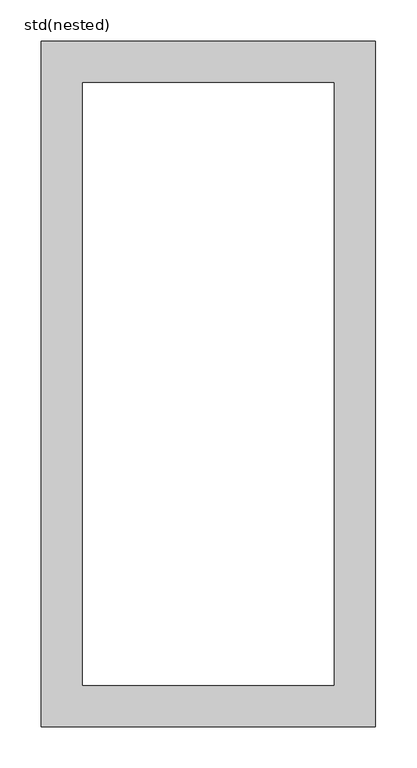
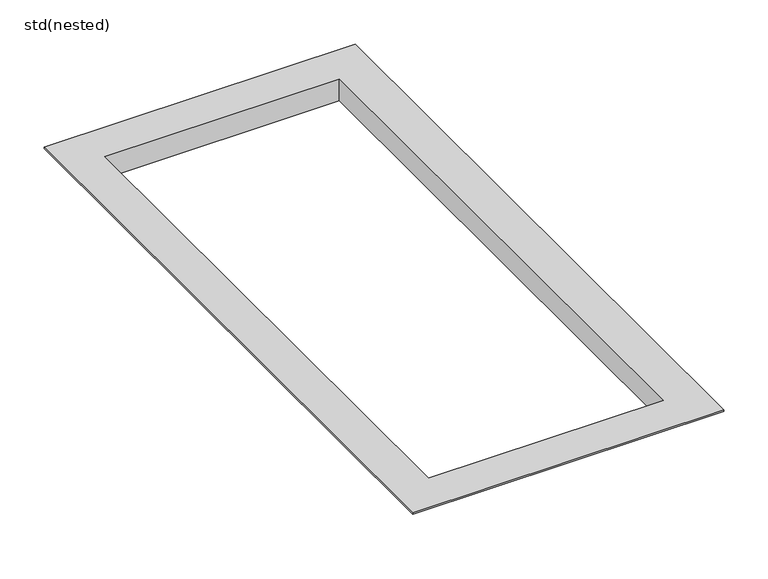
"""IFC4 building model written with IfcOpenShell, lengths in millimetres: furniture geometry, ZZZ_do not use_GM_WPB_flushframe_double connection_ACO : std(nested)."""

from ifc_helpers import new_model, si_unit, origin, place, context, project, spatial, faceted_brep, source, transform, mapped, element, save


def std_nested_1e3dd5eb(model_context):
    return source(origin(), model_context, "Body", "Brep", [
        faceted_brep([(154.5, 367.0, -30.0), (154.5, 367.0, -2.0), (154.5, -367.0, -2.0), (154.5, -367.0, -30.0), (152.5, 365.0, 0.0), (152.5, 365.0, -30.0), (152.5, -365.0, -30.0), (152.5, -365.0, 0.0), (202.5, 415.0, -2.0), (202.5, 415.0, 0.0), (202.5, -415.0, 0.0), (202.5, -415.0, -2.0), (-154.5, -367.0, -2.0), (-154.5, -367.0, -30.0), (-152.5, -365.0, -30.0), (-152.5, -365.0, 0.0), (-202.5, -415.0, 0.0), (-202.5, -415.0, -2.0), (-154.5, 367.0, -2.0), (-154.5, 367.0, -30.0), (-152.5, 365.0, -30.0), (-152.5, 365.0, 0.0), (-202.5, 415.0, 0.0), (-202.5, 415.0, -2.0)], [[[0, 1, 2, 3]], [[4, 5, 6, 7]], [[8, 9, 10, 11]], [[3, 2, 12, 13]], [[7, 6, 14, 15]], [[11, 10, 16, 17]], [[13, 12, 18, 19]], [[15, 14, 20, 21]], [[17, 16, 22, 23]], [[11, 17, 23, 8], [1, 18, 12, 2]], [[19, 18, 1, 0]], [[3, 13, 19, 0], [5, 20, 14, 6]], [[21, 20, 5, 4]], [[9, 22, 16, 10], [7, 15, 21, 4]], [[23, 22, 9, 8]]]),
    ])


if __name__ == "__main__":
    model = new_model("IFC4")
    model_context = context("Model", 3, world=origin())
    ifc_project = project(units=[si_unit("LENGTHUNIT", "METRE", prefix="MILLI")], contexts=[model_context])
    site = spatial("IfcSite", under=ifc_project)
    building = spatial("IfcBuilding", under=site)
    placement = place(None, origin())
    std_nested_shape = std_nested_1e3dd5eb(model_context)
    element("IfcFurniture", 1, ObjectType="ZZZ_do not use_GM_WPB_flushframe_double connection_ACO : std(nested)", at=placement, inside=building, context=model_context, shape_type="MappedRepresentation", body=[
        mapped(std_nested_shape, transform((0.0, 0.0, 0.0), x_axis=(1.0, 0.0, 0.0), y_axis=(0.0, 1.0, 0.0), z_axis=(0.0, 0.0, 1.0))),
    ])
    save(model, "model.ifc")
